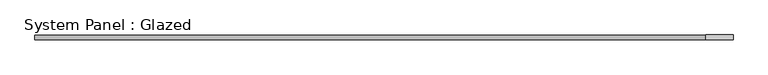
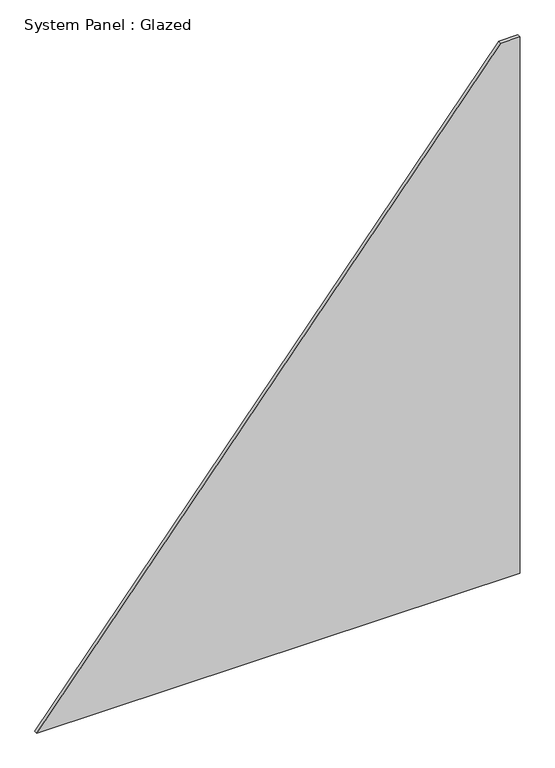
"""IFC4 building model written with IfcOpenShell, lengths in millimetres: plate geometry, System Panel : Glazed."""

from ifc_helpers import new_model, si_unit, frame, origin, place, context, project, spatial, polyline, outline, extrude, source, transform, mapped, element, save


def system_panel_glazed_947a4620(model_context):
    return source(origin(), model_context, "Body", "SweptSolid", [
        extrude(outline(polyline([(0.0, -730.8686501), (0.0, 730.8686501), (1714.0731694, 730.8686501), (1714.0731694, 673.2178907), (0.0, -730.8686501)])), frame((0.0, -5.0, 0.0), z_axis=(0.0, 1.0, 0.0), x_axis=(0.0, 0.0, 1.0)), (0.0, 0.0, 1.0), 10.0),
    ])


if __name__ == "__main__":
    model = new_model("IFC4")
    model_context = context("Model", 3, world=origin())
    ifc_project = project(units=[si_unit("LENGTHUNIT", "METRE", prefix="MILLI")], contexts=[model_context])
    site = spatial("IfcSite", under=ifc_project)
    building = spatial("IfcBuilding", under=site)
    placement = place(None, origin())
    system_panel_glazed_shape = system_panel_glazed_947a4620(model_context)
    element("IfcPlate", 1, ObjectType="System Panel : Glazed", at=placement, inside=building, context=model_context, shape_type="MappedRepresentation", body=[
        mapped(system_panel_glazed_shape, transform((0.0, 0.0, 0.0), x_axis=(1.0, 0.0, 0.0), y_axis=(0.0, 1.0, 0.0), z_axis=(0.0, 0.0, 1.0))),
    ])
    save(model, "model.ifc")
